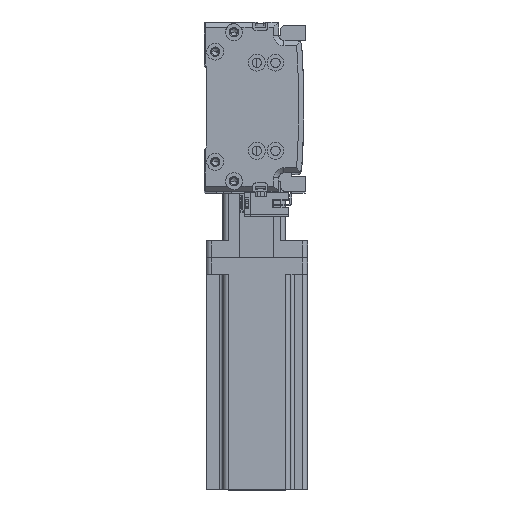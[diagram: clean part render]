
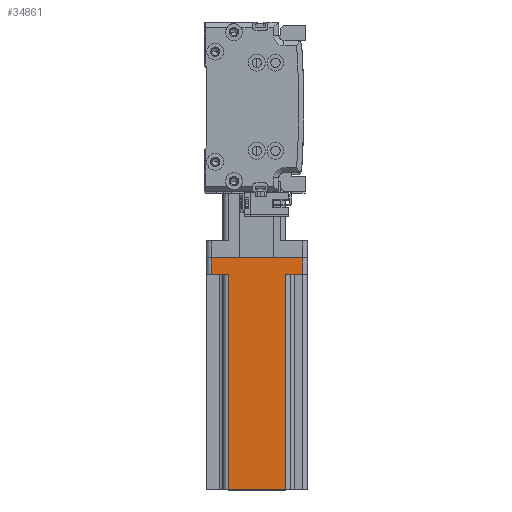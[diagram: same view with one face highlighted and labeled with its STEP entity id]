
A CAD part, top view. The second image highlights one B-rep face of the part: STEP entity #34861.
In plain terms, the highlighted planar face has unit normal (0, 0, 1) as drawn and (0, 1, 0) by its records, which use the part's own axes.
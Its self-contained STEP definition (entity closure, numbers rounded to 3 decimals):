
#907 = CARTESIAN_POINT ( 'NONE',  ( -17., 30., 137. ) ) ;
#1235 = VERTEX_POINT ( 'NONE', #20393 ) ;
#1663 = LINE ( 'NONE', #42577, #39210 ) ;
#2303 = LINE ( 'NONE', #12764, #38693 ) ;
#2544 = EDGE_LOOP ( 'NONE', ( #38569, #30086, #13313, #39544, #35320, #9628, #16226, #28845 ) ) ;
#2585 = PLANE ( 'NONE',  #34941 ) ;
#3096 = LINE ( 'NONE', #11604, #21357 ) ;
#3340 = VECTOR ( 'NONE', #38387, 1000. ) ;
#3492 = CARTESIAN_POINT ( 'NONE',  ( 30., 30., 0. ) ) ;
#3598 = LINE ( 'NONE', #907, #21885 ) ;
#3882 = VECTOR ( 'NONE', #25329, 1000. ) ;
#4566 = DIRECTION ( 'NONE',  ( 0., 0., 1. ) ) ;
#9628 = ORIENTED_EDGE ( 'NONE', *, *, #37685, .T. ) ;
#10472 = VECTOR ( 'NONE', #23682, 1000. ) ;
#10539 = CARTESIAN_POINT ( 'NONE',  ( -27., 30., 0. ) ) ;
#11604 = CARTESIAN_POINT ( 'NONE',  ( 30., 30., 137. ) ) ;
#11894 = CARTESIAN_POINT ( 'NONE',  ( 27., 30., 137. ) ) ;
#12013 = VECTOR ( 'NONE', #44742, 1000. ) ;
#12764 = CARTESIAN_POINT ( 'NONE',  ( 17., 30., 137. ) ) ;
#13099 = LINE ( 'NONE', #34799, #3340 ) ;
#13313 = ORIENTED_EDGE ( 'NONE', *, *, #35729, .F. ) ;
#13500 = CARTESIAN_POINT ( 'NONE',  ( 17., 30., 10. ) ) ;
#13816 = EDGE_CURVE ( 'NONE', #1235, #14354, #1663, .T. ) ;
#14091 = VERTEX_POINT ( 'NONE', #37288 ) ;
#14354 = VERTEX_POINT ( 'NONE', #35245 ) ;
#16226 = ORIENTED_EDGE ( 'NONE', *, *, #18789, .T. ) ;
#16543 = VERTEX_POINT ( 'NONE', #45743 ) ;
#17242 = CARTESIAN_POINT ( 'NONE',  ( 30., 30., 137. ) ) ;
#18727 = LINE ( 'NONE', #3492, #3882 ) ;
#18789 = EDGE_CURVE ( 'NONE', #16543, #31659, #18727, .T. ) ;
#20182 = LINE ( 'NONE', #38091, #10472 ) ;
#20393 = CARTESIAN_POINT ( 'NONE',  ( -27., 30., 10. ) ) ;
#20906 = DIRECTION ( 'NONE',  ( 1., 0., 0. ) ) ;
#21357 = VECTOR ( 'NONE', #45071, 1000. ) ;
#21885 = VECTOR ( 'NONE', #4566, 1000. ) ;
#23682 = DIRECTION ( 'NONE',  ( -1., 0., 0. ) ) ;
#25108 = VERTEX_POINT ( 'NONE', #13500 ) ;
#25329 = DIRECTION ( 'NONE',  ( -1., 0., 0. ) ) ;
#26314 = CARTESIAN_POINT ( 'NONE',  ( 17., 30., 137. ) ) ;
#28845 = ORIENTED_EDGE ( 'NONE', *, *, #43808, .T. ) ;
#29068 = LINE ( 'NONE', #11894, #12013 ) ;
#30086 = ORIENTED_EDGE ( 'NONE', *, *, #32418, .T. ) ;
#30875 = DIRECTION ( 'NONE',  ( 0., 0., -1. ) ) ;
#31659 = VERTEX_POINT ( 'NONE', #10539 ) ;
#32418 = EDGE_CURVE ( 'NONE', #14354, #45954, #3598, .T. ) ;
#33161 = FACE_OUTER_BOUND ( 'NONE', #2544, .T. ) ;
#34111 = EDGE_CURVE ( 'NONE', #14091, #25108, #20182, .T. ) ;
#34799 = CARTESIAN_POINT ( 'NONE',  ( -27., 30., 137. ) ) ;
#34861 = ADVANCED_FACE ( 'NONE', ( #33161 ), #2585, .F. ) ;
#34941 = AXIS2_PLACEMENT_3D ( 'NONE', #17242, #42654, #20906 ) ;
#35245 = CARTESIAN_POINT ( 'NONE',  ( -17., 30., 10. ) ) ;
#35320 = ORIENTED_EDGE ( 'NONE', *, *, #34111, .F. ) ;
#35729 = EDGE_CURVE ( 'NONE', #42507, #45954, #3096, .T. ) ;
#37288 = CARTESIAN_POINT ( 'NONE',  ( 27., 30., 10. ) ) ;
#37685 = EDGE_CURVE ( 'NONE', #14091, #16543, #29068, .T. ) ;
#38091 = CARTESIAN_POINT ( 'NONE',  ( 20., 30., 10. ) ) ;
#38387 = DIRECTION ( 'NONE',  ( 0., 0., 1. ) ) ;
#38569 = ORIENTED_EDGE ( 'NONE', *, *, #13816, .T. ) ;
#38593 = CARTESIAN_POINT ( 'NONE',  ( -17., 30., 137. ) ) ;
#38693 = VECTOR ( 'NONE', #30875, 1000. ) ;
#38889 = DIRECTION ( 'NONE',  ( 1., 0., 0. ) ) ;
#39210 = VECTOR ( 'NONE', #38889, 1000. ) ;
#39544 = ORIENTED_EDGE ( 'NONE', *, *, #43210, .T. ) ;
#42507 = VERTEX_POINT ( 'NONE', #26314 ) ;
#42577 = CARTESIAN_POINT ( 'NONE',  ( -20., 30., 10. ) ) ;
#42654 = DIRECTION ( 'NONE',  ( 0., -1., 0. ) ) ;
#43210 = EDGE_CURVE ( 'NONE', #42507, #25108, #2303, .T. ) ;
#43808 = EDGE_CURVE ( 'NONE', #31659, #1235, #13099, .T. ) ;
#44742 = DIRECTION ( 'NONE',  ( 0., 0., -1. ) ) ;
#45071 = DIRECTION ( 'NONE',  ( -1., 0., 0. ) ) ;
#45743 = CARTESIAN_POINT ( 'NONE',  ( 27., 30., 0. ) ) ;
#45954 = VERTEX_POINT ( 'NONE', #38593 ) ;
